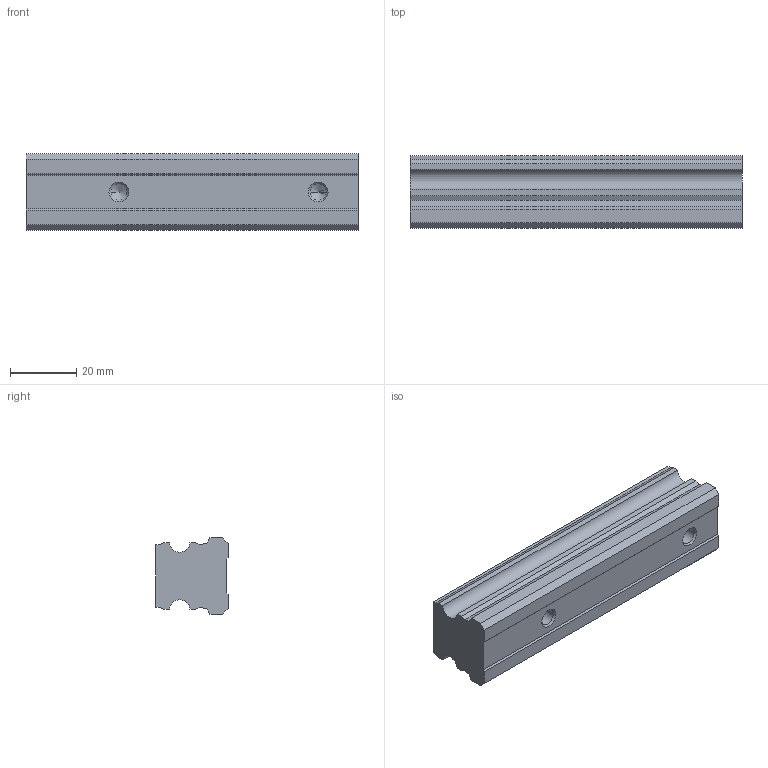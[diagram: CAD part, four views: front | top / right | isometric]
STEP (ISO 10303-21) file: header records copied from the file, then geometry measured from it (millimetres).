
FILE_DESCRIPTION( ( '' ), '1' );
FILE_NAME( 'c:/dr_tretter_step_out/schienenfuehrungen/alu_sf/b25_0100.stp', '2008-09-03T09:11:45', ( '' ), ( '' ), ' ', ' ', ' ' );
FILE_SCHEMA( ( 'CONFIG_CONTROL_DESIGN' ) );
Length unit declared in the file: millimetre
Products named in the file (1): 1
Bounding box: 100 x 21.8 x 23 mm (x, y, z)
Volume: 40859.4 mm3; surface area: 10549.5 mm2
Topology: 1 solids, 1 shells, 40 faces, 106 edges, 66 vertices
Faces by surface type: plane 26, cone 8, cylinder 6
Entity records: 1238 total; most frequent: CARTESIAN_POINT 209, ORIENTED_EDGE 204, DIRECTION 200, EDGE_CURVE 102, LINE 86, VECTOR 86, VERTEX_POINT 66, AXIS2_PLACEMENT_3D 57
